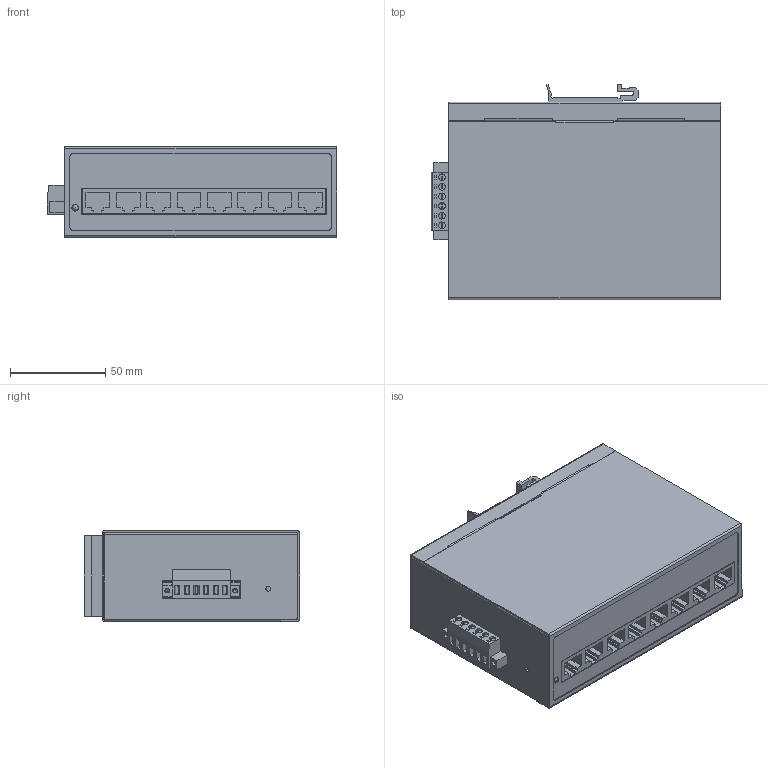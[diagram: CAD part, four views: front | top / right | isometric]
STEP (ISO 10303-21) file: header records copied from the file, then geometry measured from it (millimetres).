
FILE_DESCRIPTION (( 'STEP AP214' ), '1' );
FILE_NAME ('匐諳鍼踢賦凳.STEP', '2023-11-17T08:23:12', ( '' ), ( '' ), 'SwSTEP 2.0', 'SolidWorks 2018', '' );
FILE_SCHEMA (( 'AUTOMOTIVE_DESIGN' ));
Length unit declared in the file: millimetre
Products named in the file (6): 匐諳奻裔; 匐諳鍼踢賦凳; 42絳寢; 匐萇翋啣; 匐諳菁裔; 6P俋諉傷赽
Assembly tree (5 placements, depth 2):
  匐諳鍼踢賦凳
    匐諳菁裔
    匐諳奻裔
    匐萇翋啣
    42絳寢
    6P俋諉傷赽
Bounding box: 151.5 x 112.8 x 47.5 mm (x, y, z)
Volume: 101756.1 mm3; surface area: 156808.8 mm2
Topology: 7 solids, 7 shells, 675 faces, 1649 edges, 1020 vertices
Faces by surface type: plane 517, cylinder 141, cone 16, sphere 1
Entity records: 21708 total; most frequent: CARTESIAN_POINT 3343, DIRECTION 3336, ORIENTED_EDGE 3284, EDGE_CURVE 1642, LINE 1314, VECTOR 1314, VERTEX_POINT 1018, AXIS2_PLACEMENT_3D 1011
